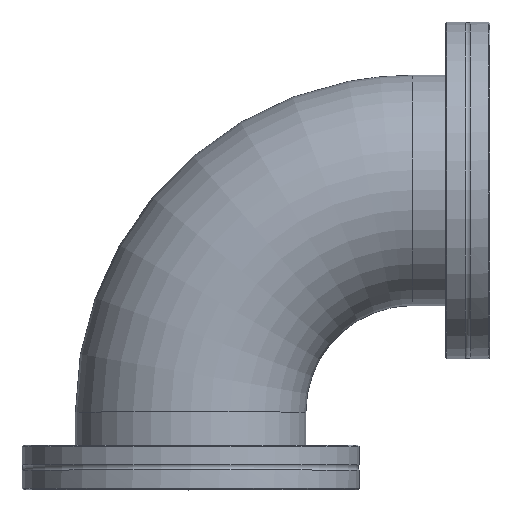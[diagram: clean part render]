
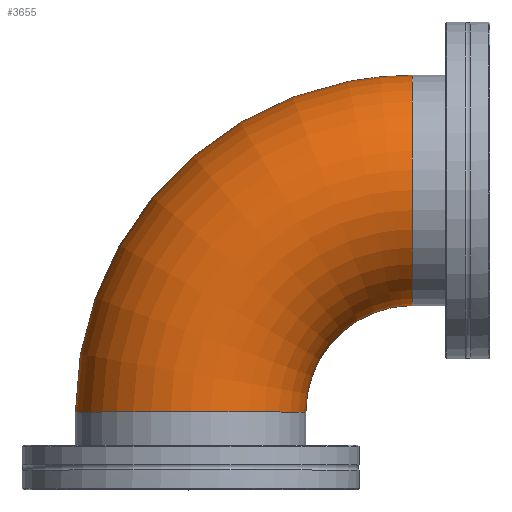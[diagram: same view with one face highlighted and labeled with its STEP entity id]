
A CAD part, top view. The second image highlights one B-rep face of the part: STEP entity #3655.
In plain terms, the highlighted toroidal (fillet/blend) face has major radius 100 mm and minor radius 52 mm.
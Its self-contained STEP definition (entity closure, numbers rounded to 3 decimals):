
#3624=CARTESIAN_POINT('',(100.0,176.0,0.));
#3625=VERTEX_POINT('',#3624);
#3626=CARTESIAN_POINT('',(100.0,124.0,0.0));
#3627=DIRECTION('',(-1.0,0.0,0.0));
#3628=DIRECTION('',(0.0,-1.0,0.0));
#3629=AXIS2_PLACEMENT_3D('',#3626,#3627,#3628);
#3630=CIRCLE('',#3629,52.0);
#3631=EDGE_CURVE('',#3625,#3625,#3630,.T.);
#3636=CARTESIAN_POINT('',(100.0,24.,0.0));
#3637=DIRECTION('',(0.0,0.0,-1.0));
#3638=DIRECTION('',(-1.0,0.0,0.0));
#3639=AXIS2_PLACEMENT_3D('',#3636,#3637,#3638);
#3640=TOROIDAL_SURFACE('',#3639,100.0,52.0);
#3641=ORIENTED_EDGE('',*,*,#3631,.T.);
#3642=EDGE_LOOP('',(#3641));
#3643=FACE_OUTER_BOUND('',#3642,.T.);
#3644=CARTESIAN_POINT('',(-52.0,24.,0.));
#3645=VERTEX_POINT('',#3644);
#3646=CARTESIAN_POINT('',(0.0,24.,0.0));
#3647=DIRECTION('',(0.0,-1.0,0.0));
#3648=DIRECTION('',(1.0,0.0,0.0));
#3649=AXIS2_PLACEMENT_3D('',#3646,#3647,#3648);
#3650=CIRCLE('',#3649,52.0);
#3651=EDGE_CURVE('',#3645,#3645,#3650,.T.);
#3652=ORIENTED_EDGE('',*,*,#3651,.F.);
#3653=EDGE_LOOP('',(#3652));
#3654=FACE_BOUND('',#3653,.T.);
#3655=ADVANCED_FACE('',(#3643,#3654),#3640,.T.);
